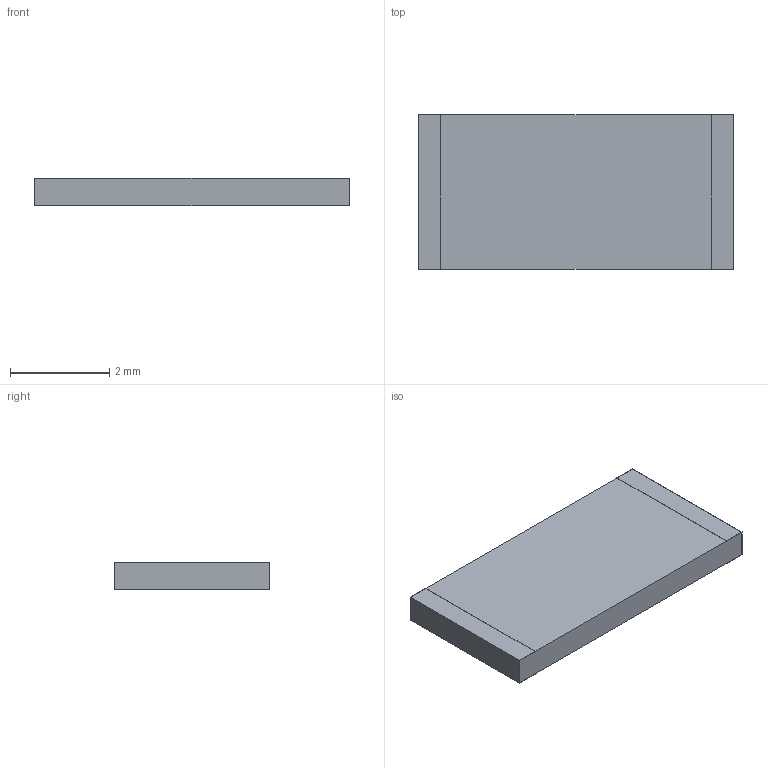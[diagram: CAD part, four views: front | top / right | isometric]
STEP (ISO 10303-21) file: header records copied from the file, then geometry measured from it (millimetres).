
FILE_DESCRIPTION(/* description */ (''),/* implementation_level */ '2;1');
FILE_NAME(/* name */ 'S:\DOCUMENT\AUTOCAD\3D_Modèles\10_3D-pour-VISHAY-COM\2512\CHPHR2512_B-or-G.stp',/* time_stamp */ '2018-01-23T14:12:01+01:00',/* author */ ('dparmentier'),/* organization */ ('unknown'),/* preprocessor_version */ 'ST-DEVELOPER v17',/* originating_system */ 'Autodesk Inventor 2018',/* authorisation */ '');
FILE_SCHEMA (('AUTOMOTIVE_DESIGN { 1 0 10303 214 3 1 1 }'));
Length unit declared in the file: millimetre
Products named in the file (1): CHPHR2512_B-or-G
Bounding box: 6.35 x 3.12 x 0.56 mm (x, y, z)
Volume: 11 mm3; surface area: 68.3 mm2
Topology: 3 solids, 3 shells, 26 faces, 60 edges, 40 vertices
Faces by surface type: plane 26
Entity records: 775 total; most frequent: CARTESIAN_POINT 127, ORIENTED_EDGE 120, DIRECTION 114, LINE 60, VECTOR 60, EDGE_CURVE 60, VERTEX_POINT 40, AXIS2_PLACEMENT_3D 27
